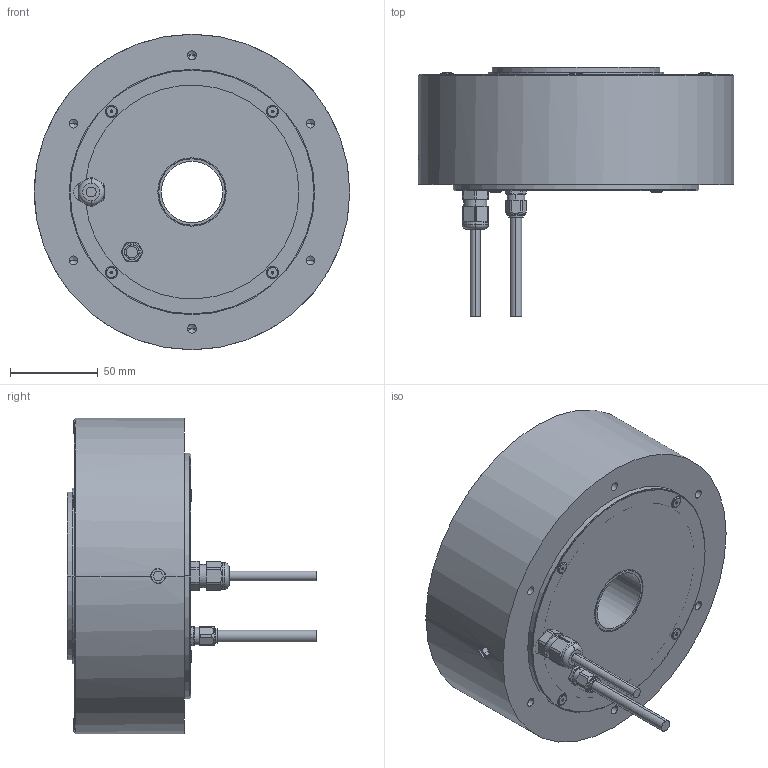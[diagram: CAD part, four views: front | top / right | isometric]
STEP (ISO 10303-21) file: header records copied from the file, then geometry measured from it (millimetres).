
FILE_DESCRIPTION (( 'STEP AP214' ), '1' );
FILE_NAME ('BZA01870.STEP', '2024-03-27T07:17:00', ( '' ), ( '' ), 'SwSTEP 2.0', 'SolidWorks 2023', '' );
FILE_SCHEMA (( 'AUTOMOTIVE_DESIGN' ));
Length unit declared in the file: millimetre
Products named in the file (1): BZA01870
Bounding box: 180 x 142.3 x 180 mm (x, y, z)
Volume: 607178.7 mm3; surface area: 200926.4 mm2
Topology: 17 solids, 17 shells, 667 faces, 1691 edges, 1051 vertices
Faces by surface type: cylinder 376, cone 129, plane 107, torus 30, sphere 20, bspline 5
Entity records: 21321 total; most frequent: CARTESIAN_POINT 5206, DIRECTION 3456, ORIENTED_EDGE 3242, EDGE_CURVE 1621, AXIS2_PLACEMENT_3D 1425, VERTEX_POINT 1051, EDGE_LOOP 764, CIRCLE 762
